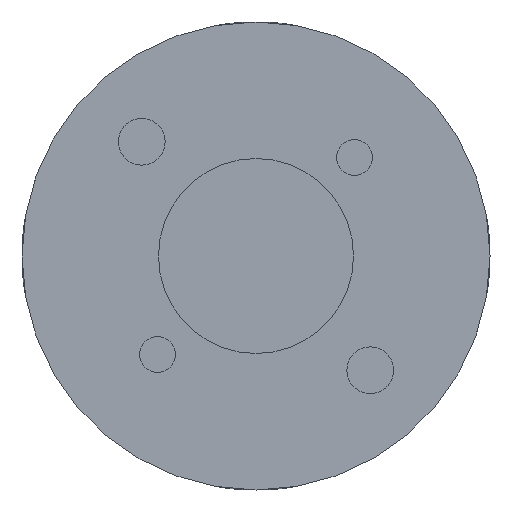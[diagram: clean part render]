
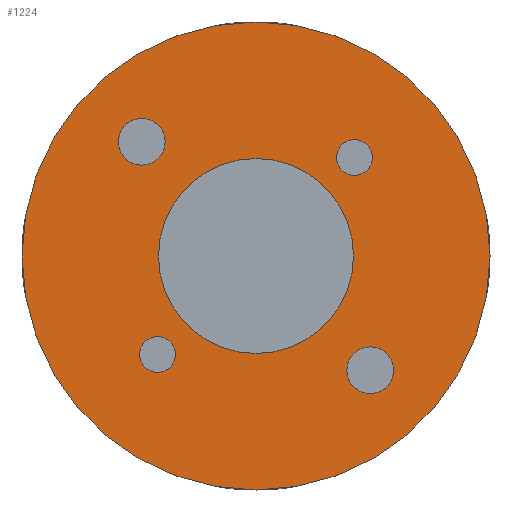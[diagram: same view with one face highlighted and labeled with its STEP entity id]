
A CAD part, front view. The second image highlights one B-rep face of the part: STEP entity #1224.
In plain terms, the highlighted planar face has unit normal (0, -1, 0).
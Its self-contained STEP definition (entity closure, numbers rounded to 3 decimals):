
#82 = VERTEX_POINT ( 'NONE', #3411 ) ;
#96 = CIRCLE ( 'NONE', #885, 1.6 ) ;
#196 = DIRECTION ( 'NONE',  ( 0., -1., 0. ) ) ;
#197 = CIRCLE ( 'NONE', #2258, 2.1 ) ;
#293 = EDGE_CURVE ( 'NONE', #2318, #4206, #4189, .T. ) ;
#330 = DIRECTION ( 'NONE',  ( 0., -1., 0. ) ) ;
#357 = EDGE_LOOP ( 'NONE', ( #4307, #5036 ) ) ;
#409 = DIRECTION ( 'NONE',  ( 0., 0., -1. ) ) ;
#553 = EDGE_CURVE ( 'NONE', #5711, #4247, #5657, .T. ) ;
#562 = DIRECTION ( 'NONE',  ( 0., -1., 0. ) ) ;
#566 = AXIS2_PLACEMENT_3D ( 'NONE', #3328, #2467, #1419 ) ;
#714 = DIRECTION ( 'NONE',  ( 0., 0., -1. ) ) ;
#726 = ORIENTED_EDGE ( 'NONE', *, *, #1713, .F. ) ;
#734 = FACE_BOUND ( 'NONE', #2482, .T. ) ;
#885 = AXIS2_PLACEMENT_3D ( 'NONE', #4543, #3109, #4972 ) ;
#914 = CARTESIAN_POINT ( 'NONE',  ( 0., 0., -21. ) ) ;
#930 = DIRECTION ( 'NONE',  ( 0., 0., -1. ) ) ;
#996 = DIRECTION ( 'NONE',  ( 0., 0., -1. ) ) ;
#1116 = VERTEX_POINT ( 'NONE', #3207 ) ;
#1223 = FACE_BOUND ( 'NONE', #3866, .T. ) ;
#1224 = ADVANCED_FACE ( 'NONE', ( #3560, #734, #1288, #2210, #1223, #5953 ), #5518, .T. ) ;
#1236 = ORIENTED_EDGE ( 'NONE', *, *, #553, .T. ) ;
#1287 = DIRECTION ( 'NONE',  ( 0., 0., -1. ) ) ;
#1288 = FACE_BOUND ( 'NONE', #4400, .T. ) ;
#1365 = AXIS2_PLACEMENT_3D ( 'NONE', #1576, #196, #714 ) ;
#1385 = VERTEX_POINT ( 'NONE', #3348 ) ;
#1419 = DIRECTION ( 'NONE',  ( 0., 0., -1. ) ) ;
#1447 = CARTESIAN_POINT ( 'NONE',  ( 10.253, 0., -10.253 ) ) ;
#1455 = AXIS2_PLACEMENT_3D ( 'NONE', #5963, #1786, #409 ) ;
#1517 = DIRECTION ( 'NONE',  ( 0., 0., -1. ) ) ;
#1520 = CIRCLE ( 'NONE', #5743, 8.75 ) ;
#1576 = CARTESIAN_POINT ( 'NONE',  ( -10.253, 0., 10.253 ) ) ;
#1656 = VERTEX_POINT ( 'NONE', #5503 ) ;
#1675 = CARTESIAN_POINT ( 'NONE',  ( 0., 0., 0. ) ) ;
#1683 = EDGE_CURVE ( 'NONE', #1385, #1116, #4200, .T. ) ;
#1713 = EDGE_CURVE ( 'NONE', #2369, #4902, #5182, .T. ) ;
#1728 = DIRECTION ( 'NONE',  ( 0., 0., -1. ) ) ;
#1786 = DIRECTION ( 'NONE',  ( 0., -1., 0. ) ) ;
#1825 = DIRECTION ( 'NONE',  ( 0., -1., 0. ) ) ;
#1873 = EDGE_CURVE ( 'NONE', #5464, #5509, #5672, .T. ) ;
#1935 = CIRCLE ( 'NONE', #4781, 2.1 ) ;
#1976 = DIRECTION ( 'NONE',  ( 0., -1., 0. ) ) ;
#2036 = CIRCLE ( 'NONE', #566, 21. ) ;
#2172 = DIRECTION ( 'NONE',  ( 0., -1., 0. ) ) ;
#2210 = FACE_BOUND ( 'NONE', #2880, .T. ) ;
#2227 = CARTESIAN_POINT ( 'NONE',  ( 0., 0., 21. ) ) ;
#2236 = AXIS2_PLACEMENT_3D ( 'NONE', #4143, #3078, #4074 ) ;
#2258 = AXIS2_PLACEMENT_3D ( 'NONE', #5791, #2172, #4465 ) ;
#2318 = VERTEX_POINT ( 'NONE', #5246 ) ;
#2369 = VERTEX_POINT ( 'NONE', #3405 ) ;
#2438 = AXIS2_PLACEMENT_3D ( 'NONE', #4248, #562, #996 ) ;
#2467 = DIRECTION ( 'NONE',  ( 0., -1., 0. ) ) ;
#2482 = EDGE_LOOP ( 'NONE', ( #3426, #3923 ) ) ;
#2762 = AXIS2_PLACEMENT_3D ( 'NONE', #5697, #3397, #1517 ) ;
#2790 = DIRECTION ( 'NONE',  ( 0., -1., 0. ) ) ;
#2837 = ORIENTED_EDGE ( 'NONE', *, *, #3108, .F. ) ;
#2880 = EDGE_LOOP ( 'NONE', ( #4878, #5802 ) ) ;
#2960 = EDGE_CURVE ( 'NONE', #1116, #1385, #96, .T. ) ;
#3025 = EDGE_LOOP ( 'NONE', ( #1236, #6018 ) ) ;
#3056 = CARTESIAN_POINT ( 'NONE',  ( 8.839, 0., 10.439 ) ) ;
#3078 = DIRECTION ( 'NONE',  ( 0., -1., 0. ) ) ;
#3108 = EDGE_CURVE ( 'NONE', #5509, #5464, #197, .T. ) ;
#3109 = DIRECTION ( 'NONE',  ( 0., -1., 0. ) ) ;
#3207 = CARTESIAN_POINT ( 'NONE',  ( -8.839, 0., -7.239 ) ) ;
#3276 = CARTESIAN_POINT ( 'NONE',  ( 0., 0., 0. ) ) ;
#3277 = EDGE_CURVE ( 'NONE', #1656, #82, #1520, .T. ) ;
#3328 = CARTESIAN_POINT ( 'NONE',  ( 0., 0., 0. ) ) ;
#3348 = CARTESIAN_POINT ( 'NONE',  ( -8.839, 0., -10.439 ) ) ;
#3397 = DIRECTION ( 'NONE',  ( 0., -1., 0. ) ) ;
#3405 = CARTESIAN_POINT ( 'NONE',  ( 8.839, 0., 7.239 ) ) ;
#3411 = CARTESIAN_POINT ( 'NONE',  ( 0., 0., -8.75 ) ) ;
#3426 = ORIENTED_EDGE ( 'NONE', *, *, #1683, .F. ) ;
#3560 = FACE_BOUND ( 'NONE', #357, .T. ) ;
#3621 = CARTESIAN_POINT ( 'NONE',  ( 10.253, 0., -10.253 ) ) ;
#3641 = DIRECTION ( 'NONE',  ( 0., 0., -1. ) ) ;
#3695 = AXIS2_PLACEMENT_3D ( 'NONE', #3621, #4507, #1287 ) ;
#3834 = EDGE_CURVE ( 'NONE', #4206, #2318, #1935, .T. ) ;
#3866 = EDGE_LOOP ( 'NONE', ( #5978, #2837 ) ) ;
#3892 = EDGE_CURVE ( 'NONE', #4247, #5711, #2036, .T. ) ;
#3923 = ORIENTED_EDGE ( 'NONE', *, *, #2960, .F. ) ;
#4005 = AXIS2_PLACEMENT_3D ( 'NONE', #5939, #1825, #1728 ) ;
#4074 = DIRECTION ( 'NONE',  ( 0., 0., -1. ) ) ;
#4076 = EDGE_CURVE ( 'NONE', #4902, #2369, #5474, .T. ) ;
#4143 = CARTESIAN_POINT ( 'NONE',  ( 0., 0., 0. ) ) ;
#4189 = CIRCLE ( 'NONE', #3695, 2.1 ) ;
#4200 = CIRCLE ( 'NONE', #4005, 1.6 ) ;
#4206 = VERTEX_POINT ( 'NONE', #4757 ) ;
#4247 = VERTEX_POINT ( 'NONE', #914 ) ;
#4248 = CARTESIAN_POINT ( 'NONE',  ( 8.839, 0., 8.839 ) ) ;
#4307 = ORIENTED_EDGE ( 'NONE', *, *, #4345, .F. ) ;
#4345 = EDGE_CURVE ( 'NONE', #82, #1656, #4807, .T. ) ;
#4400 = EDGE_LOOP ( 'NONE', ( #726, #4540 ) ) ;
#4438 = DIRECTION ( 'NONE',  ( 0., 0., -1. ) ) ;
#4465 = DIRECTION ( 'NONE',  ( 0., 0., -1. ) ) ;
#4507 = DIRECTION ( 'NONE',  ( 0., -1., 0. ) ) ;
#4540 = ORIENTED_EDGE ( 'NONE', *, *, #4076, .F. ) ;
#4543 = CARTESIAN_POINT ( 'NONE',  ( -8.839, 0., -8.839 ) ) ;
#4757 = CARTESIAN_POINT ( 'NONE',  ( 10.253, 0., -12.353 ) ) ;
#4781 = AXIS2_PLACEMENT_3D ( 'NONE', #1447, #1976, #930 ) ;
#4807 = CIRCLE ( 'NONE', #2762, 8.75 ) ;
#4878 = ORIENTED_EDGE ( 'NONE', *, *, #3834, .F. ) ;
#4902 = VERTEX_POINT ( 'NONE', #3056 ) ;
#4972 = DIRECTION ( 'NONE',  ( 0., 0., -1. ) ) ;
#5036 = ORIENTED_EDGE ( 'NONE', *, *, #3277, .F. ) ;
#5180 = CARTESIAN_POINT ( 'NONE',  ( -10.253, 0., 12.353 ) ) ;
#5182 = CIRCLE ( 'NONE', #2438, 1.6 ) ;
#5246 = CARTESIAN_POINT ( 'NONE',  ( 10.253, 0., -8.153 ) ) ;
#5464 = VERTEX_POINT ( 'NONE', #5632 ) ;
#5474 = CIRCLE ( 'NONE', #1455, 1.6 ) ;
#5503 = CARTESIAN_POINT ( 'NONE',  ( 0., 0., 8.75 ) ) ;
#5509 = VERTEX_POINT ( 'NONE', #5180 ) ;
#5518 = PLANE ( 'NONE',  #2236 ) ;
#5632 = CARTESIAN_POINT ( 'NONE',  ( -10.253, 0., 8.153 ) ) ;
#5657 = CIRCLE ( 'NONE', #5856, 21. ) ;
#5672 = CIRCLE ( 'NONE', #1365, 2.1 ) ;
#5697 = CARTESIAN_POINT ( 'NONE',  ( 0., 0., 0. ) ) ;
#5711 = VERTEX_POINT ( 'NONE', #2227 ) ;
#5743 = AXIS2_PLACEMENT_3D ( 'NONE', #3276, #2790, #3641 ) ;
#5791 = CARTESIAN_POINT ( 'NONE',  ( -10.253, 0., 10.253 ) ) ;
#5802 = ORIENTED_EDGE ( 'NONE', *, *, #293, .F. ) ;
#5856 = AXIS2_PLACEMENT_3D ( 'NONE', #1675, #330, #4438 ) ;
#5939 = CARTESIAN_POINT ( 'NONE',  ( -8.839, 0., -8.839 ) ) ;
#5953 = FACE_OUTER_BOUND ( 'NONE', #3025, .T. ) ;
#5963 = CARTESIAN_POINT ( 'NONE',  ( 8.839, 0., 8.839 ) ) ;
#5978 = ORIENTED_EDGE ( 'NONE', *, *, #1873, .F. ) ;
#6018 = ORIENTED_EDGE ( 'NONE', *, *, #3892, .T. ) ;
